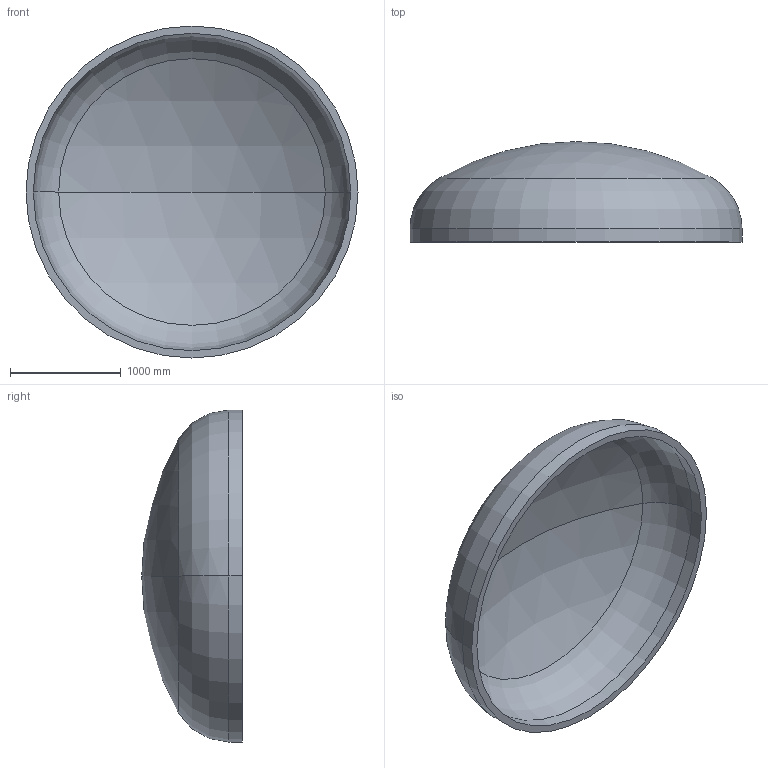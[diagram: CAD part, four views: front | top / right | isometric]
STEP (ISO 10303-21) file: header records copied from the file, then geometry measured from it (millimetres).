
FILE_DESCRIPTION (( 'STEP AP203' ), '1' );
FILE_NAME ('DIN 28013 Korbbogenform_-_Boden DIN 28013 - 3000 x 120 - I - s=66.step', '2016-07-01T17:56:43', ( '' ), ( '' ), 'SwSTEP 2.0', 'SolidWorks 2013', '' );
FILE_SCHEMA (( 'CONFIG_CONTROL_DESIGN' ));
Length unit declared in the file: millimetre
Products named in the file (1): DIN 28013 Korbbogenform_-_Boden DIN 28013 - 3000 x 120 - I - s=66
Bounding box: 3000 x 908.23 x 3000 mm (x, y, z)
Volume: 700174323.4 mm3; surface area: 21834870.3 mm2
Topology: 1 solids, 1 shells, 13 faces, 24 edges, 14 vertices
Faces by surface type: torus 4, cylinder 4, sphere 4, plane 1
Entity records: 407 total; most frequent: DIRECTION 72, CARTESIAN_POINT 52, ORIENTED_EDGE 48, AXIS2_PLACEMENT_3D 34, EDGE_CURVE 24, CIRCLE 20, VERTEX_POINT 14, EDGE_LOOP 14
